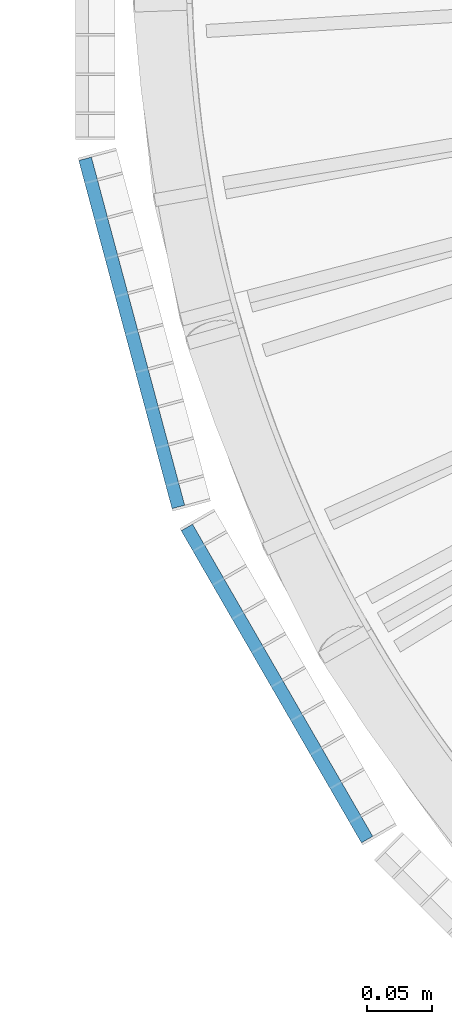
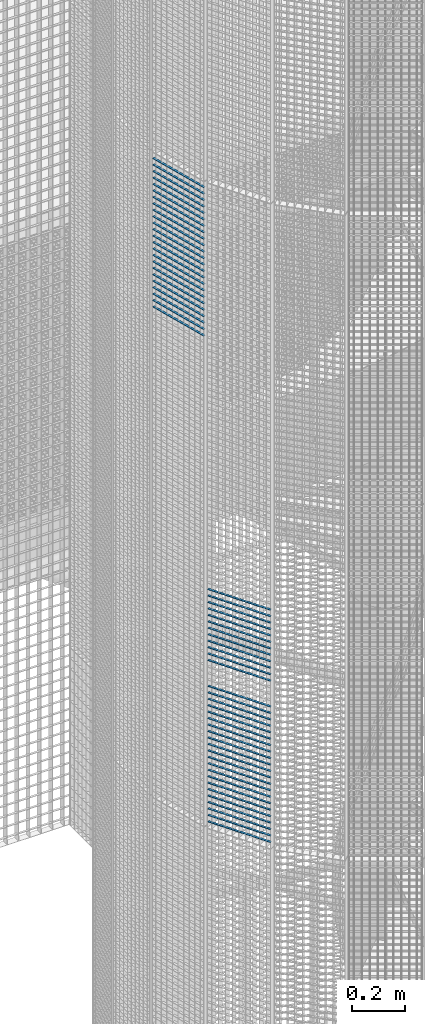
# One storey, part 122 of 1183: 58 beams, 2 elements without a shape of their own.
"""IFC2X3 building model written with IfcOpenShell, lengths in millimetres."""

from ifc_helpers import new_model, si_unit, frame, origin_with_axes, origin_2d_with_axis, place, context, subcontext, project, spatial, rectangle, extrude, material, type_object, element, aggregate, save


model = new_model("IFC2X3")

# Units and contexts
model_context = context("Model", 3, precision=1e-05, world=origin_with_axes())
body_context = subcontext(model_context, "Body", "Model", "MODEL_VIEW")
ifc_project = project(units=[si_unit("LENGTHUNIT", "METRE", prefix="MILLI"), si_unit("AREAUNIT", "SQUARE_METRE"), si_unit("VOLUMEUNIT", "CUBIC_METRE"), si_unit("MASSUNIT", "GRAM", prefix="KILO"), si_unit("TIMEUNIT", "SECOND"), si_unit("PLANEANGLEUNIT", "RADIAN"), si_unit("SOLIDANGLEUNIT", "STERADIAN"), si_unit("THERMODYNAMICTEMPERATUREUNIT", "DEGREE_CELSIUS"), si_unit("LUMINOUSINTENSITYUNIT", "LUMEN")], contexts=[model_context])

# Site, building, storey
site_placement = place(None, origin_with_axes())
site = spatial("IfcSite", under=ifc_project, at=site_placement, Name="Undefined", CompositionType="ELEMENT")
building_placement = place(site_placement, origin_with_axes())
building = spatial("IfcBuilding", under=site, at=building_placement, Name="Undefined", CompositionType="ELEMENT")
storey_placement = place(building_placement, origin_with_axes())
storey = spatial("IfcBuildingStorey", under=building, at=storey_placement, Name="Undefined", CompositionType="ELEMENT", Elevation=0.0)

# Assembly, beams
assembly_1_placement = place(storey_placement, origin_with_axes())
assembly_1 = element("IfcElementAssembly", 1, at=assembly_1_placement, inside=storey, Name="BORDURE", AssemblyPlace="NOTDEFINED", PredefinedType="NOTDEFINED")
ifc_material = material(Name="STEEL/S235JR")
beam_type = type_object("IfcBeamType", Name="PL2*10", PredefinedType="NOTDEFINED")
beam_1_placement = place(assembly_1_placement, frame((-1033.29996828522, -437.231955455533, 6660.0), z_axis=(-0.866025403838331, -0.499999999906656, 0.0), x_axis=(0.499999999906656, -0.866025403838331, 0.0)))
beam_1 = element("IfcBeam", 2, at=beam_1_placement, type_object=beam_type, material=ifc_material, Name="ENTRETOISE", context=body_context, shape_type="SweptSolid", body=[
    extrude(rectangle(XDim=2.0, YDim=10.0, at=origin_2d_with_axis()), frame((275.999999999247, 9.09494701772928e-13, 1.53210777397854e-14), z_axis=(-1.0, 0.0, 0.0), x_axis=(0.0, -1.0, 0.0)), (0.0, 0.0, 1.0), 276.0),
])
beam_2_placement = place(assembly_1_placement, frame((-1033.29996828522, -437.231955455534, 6630.0), z_axis=(-0.866025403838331, -0.499999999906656, 0.0), x_axis=(0.499999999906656, -0.866025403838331, 0.0)))
beam_2 = element("IfcBeam", 3, at=beam_2_placement, type_object=beam_type, material=ifc_material, Name="ENTRETOISE", context=body_context, shape_type="SweptSolid", body=[
    extrude(rectangle(XDim=2.0, YDim=10.0, at=origin_2d_with_axis()), frame((275.999999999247, 9.09494701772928e-13, 1.53210777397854e-14), z_axis=(-1.0, 0.0, 0.0), x_axis=(0.0, -1.0, 0.0)), (0.0, 0.0, 1.0), 276.0),
])
beam_3_placement = place(assembly_1_placement, frame((-1033.29996828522, -437.231955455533, 6780.0), z_axis=(-0.866025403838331, -0.499999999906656, 0.0), x_axis=(0.499999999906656, -0.866025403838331, 0.0)))
beam_3 = element("IfcBeam", 4, at=beam_3_placement, type_object=beam_type, material=ifc_material, Name="ENTRETOISE", context=body_context, shape_type="SweptSolid", body=[
    extrude(rectangle(XDim=2.0, YDim=10.0, at=origin_2d_with_axis()), frame((275.999999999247, 9.09494701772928e-13, 1.53210777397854e-14), z_axis=(-1.0, 0.0, 0.0), x_axis=(0.0, -1.0, 0.0)), (0.0, 0.0, 1.0), 276.0),
])
beam_4_placement = place(assembly_1_placement, frame((-1033.29996828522, -437.231955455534, 6600.0), z_axis=(-0.866025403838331, -0.499999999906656, 0.0), x_axis=(0.499999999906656, -0.866025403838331, 0.0)))
beam_4 = element("IfcBeam", 5, at=beam_4_placement, type_object=beam_type, material=ifc_material, Name="ENTRETOISE", context=body_context, shape_type="SweptSolid", body=[
    extrude(rectangle(XDim=2.0, YDim=10.0, at=origin_2d_with_axis()), frame((275.999999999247, 9.09494701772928e-13, 1.53210777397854e-14), z_axis=(-1.0, 0.0, 0.0), x_axis=(0.0, -1.0, 0.0)), (0.0, 0.0, 1.0), 276.0),
])
beam_5_placement = place(assembly_1_placement, frame((-1033.29996828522, -437.231955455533, 6810.0), z_axis=(-0.866025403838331, -0.499999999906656, 0.0), x_axis=(0.499999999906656, -0.866025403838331, 0.0)))
beam_5 = element("IfcBeam", 6, at=beam_5_placement, type_object=beam_type, material=ifc_material, Name="ENTRETOISE", context=body_context, shape_type="SweptSolid", body=[
    extrude(rectangle(XDim=2.0, YDim=10.0, at=origin_2d_with_axis()), frame((275.999999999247, 9.09494701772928e-13, 1.53210777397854e-14), z_axis=(-1.0, 0.0, 0.0), x_axis=(0.0, -1.0, 0.0)), (0.0, 0.0, 1.0), 276.0),
])
beam_6_placement = place(assembly_1_placement, frame((-1033.29996828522, -437.231955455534, 6570.0), z_axis=(-0.866025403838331, -0.499999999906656, 0.0), x_axis=(0.499999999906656, -0.866025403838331, 0.0)))
beam_6 = element("IfcBeam", 7, at=beam_6_placement, type_object=beam_type, material=ifc_material, Name="ENTRETOISE", context=body_context, shape_type="SweptSolid", body=[
    extrude(rectangle(XDim=2.0, YDim=10.0, at=origin_2d_with_axis()), frame((275.999999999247, 9.09494701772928e-13, 1.53210777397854e-14), z_axis=(-1.0, 0.0, 0.0), x_axis=(0.0, -1.0, 0.0)), (0.0, 0.0, 1.0), 276.0),
])
beam_7_placement = place(assembly_1_placement, frame((-1033.29996828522, -437.231955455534, 6540.0), z_axis=(-0.866025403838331, -0.499999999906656, 0.0), x_axis=(0.499999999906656, -0.866025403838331, 0.0)))
beam_7 = element("IfcBeam", 8, at=beam_7_placement, type_object=beam_type, material=ifc_material, Name="ENTRETOISE", context=body_context, shape_type="SweptSolid", body=[
    extrude(rectangle(XDim=2.0, YDim=10.0, at=origin_2d_with_axis()), frame((275.999999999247, 9.09494701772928e-13, 1.53210777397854e-14), z_axis=(-1.0, 0.0, 0.0), x_axis=(0.0, -1.0, 0.0)), (0.0, 0.0, 1.0), 276.0),
])
beam_8_placement = place(assembly_1_placement, frame((-1033.29996828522, -437.231955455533, 6840.0), z_axis=(-0.866025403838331, -0.499999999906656, 0.0), x_axis=(0.499999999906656, -0.866025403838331, 0.0)))
beam_8 = element("IfcBeam", 9, at=beam_8_placement, type_object=beam_type, material=ifc_material, Name="ENTRETOISE", context=body_context, shape_type="SweptSolid", body=[
    extrude(rectangle(XDim=2.0, YDim=10.0, at=origin_2d_with_axis()), frame((275.999999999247, 9.09494701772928e-13, 1.53210777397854e-14), z_axis=(-1.0, 0.0, 0.0), x_axis=(0.0, -1.0, 0.0)), (0.0, 0.0, 1.0), 276.0),
])
beam_9_placement = place(assembly_1_placement, frame((-1033.29996828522, -437.231955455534, 6510.0), z_axis=(-0.866025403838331, -0.499999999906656, 0.0), x_axis=(0.499999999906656, -0.866025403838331, 0.0)))
beam_9 = element("IfcBeam", 10, at=beam_9_placement, type_object=beam_type, material=ifc_material, Name="ENTRETOISE", context=body_context, shape_type="SweptSolid", body=[
    extrude(rectangle(XDim=2.0, YDim=10.0, at=origin_2d_with_axis()), frame((275.999999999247, 9.09494701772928e-13, 1.53210777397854e-14), z_axis=(-1.0, 0.0, 0.0), x_axis=(0.0, -1.0, 0.0)), (0.0, 0.0, 1.0), 276.0),
])
beam_10_placement = place(assembly_1_placement, frame((-1033.29996828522, -437.231955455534, 6480.0), z_axis=(-0.866025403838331, -0.499999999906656, 0.0), x_axis=(0.499999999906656, -0.866025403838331, 0.0)))
beam_10 = element("IfcBeam", 11, at=beam_10_placement, type_object=beam_type, material=ifc_material, Name="ENTRETOISE", context=body_context, shape_type="SweptSolid", body=[
    extrude(rectangle(XDim=2.0, YDim=10.0, at=origin_2d_with_axis()), frame((275.999999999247, 9.09494701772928e-13, 1.53210777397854e-14), z_axis=(-1.0, 0.0, 0.0), x_axis=(0.0, -1.0, 0.0)), (0.0, 0.0, 1.0), 276.0),
])
beam_11_placement = place(assembly_1_placement, frame((-1033.29996828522, -437.231955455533, 6870.0), z_axis=(-0.866025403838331, -0.499999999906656, 0.0), x_axis=(0.499999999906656, -0.866025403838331, 0.0)))
beam_11 = element("IfcBeam", 12, at=beam_11_placement, type_object=beam_type, material=ifc_material, Name="ENTRETOISE", context=body_context, shape_type="SweptSolid", body=[
    extrude(rectangle(XDim=2.0, YDim=10.0, at=origin_2d_with_axis()), frame((275.999999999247, 9.09494701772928e-13, 1.53210777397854e-14), z_axis=(-1.0, 0.0, 0.0), x_axis=(0.0, -1.0, 0.0)), (0.0, 0.0, 1.0), 276.0),
])
beam_12_placement = place(assembly_1_placement, frame((-1033.29996828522, -437.231955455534, 6450.0), z_axis=(-0.866025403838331, -0.499999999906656, 0.0), x_axis=(0.499999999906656, -0.866025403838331, 0.0)))
beam_12 = element("IfcBeam", 13, at=beam_12_placement, type_object=beam_type, material=ifc_material, Name="ENTRETOISE", context=body_context, shape_type="SweptSolid", body=[
    extrude(rectangle(XDim=2.0, YDim=10.0, at=origin_2d_with_axis()), frame((275.999999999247, 9.09494701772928e-13, 1.53210777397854e-14), z_axis=(-1.0, 0.0, 0.0), x_axis=(0.0, -1.0, 0.0)), (0.0, 0.0, 1.0), 276.0),
])
beam_13_placement = place(assembly_1_placement, frame((-1033.29996828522, -437.231955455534, 6420.0), z_axis=(-0.866025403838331, -0.499999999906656, 0.0), x_axis=(0.499999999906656, -0.866025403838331, 0.0)))
beam_13 = element("IfcBeam", 14, at=beam_13_placement, type_object=beam_type, material=ifc_material, Name="ENTRETOISE", context=body_context, shape_type="SweptSolid", body=[
    extrude(rectangle(XDim=2.0, YDim=10.0, at=origin_2d_with_axis()), frame((275.999999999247, 9.09494701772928e-13, 1.53210777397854e-14), z_axis=(-1.0, 0.0, 0.0), x_axis=(0.0, -1.0, 0.0)), (0.0, 0.0, 1.0), 276.0),
])
beam_14_placement = place(assembly_1_placement, frame((-1033.29996828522, -437.231955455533, 6900.0), z_axis=(-0.866025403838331, -0.499999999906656, 0.0), x_axis=(0.499999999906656, -0.866025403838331, 0.0)))
beam_14 = element("IfcBeam", 15, at=beam_14_placement, type_object=beam_type, material=ifc_material, Name="ENTRETOISE", context=body_context, shape_type="SweptSolid", body=[
    extrude(rectangle(XDim=2.0, YDim=10.0, at=origin_2d_with_axis()), frame((275.999999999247, 9.09494701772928e-13, 1.53210777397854e-14), z_axis=(-1.0, 0.0, 0.0), x_axis=(0.0, -1.0, 0.0)), (0.0, 0.0, 1.0), 276.0),
])
beam_15_placement = place(assembly_1_placement, frame((-1033.29996828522, -437.231955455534, 6390.0), z_axis=(-0.866025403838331, -0.499999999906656, 0.0), x_axis=(0.499999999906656, -0.866025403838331, 0.0)))
beam_15 = element("IfcBeam", 16, at=beam_15_placement, type_object=beam_type, material=ifc_material, Name="ENTRETOISE", context=body_context, shape_type="SweptSolid", body=[
    extrude(rectangle(XDim=2.0, YDim=10.0, at=origin_2d_with_axis()), frame((275.999999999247, 9.09494701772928e-13, 1.53210777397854e-14), z_axis=(-1.0, 0.0, 0.0), x_axis=(0.0, -1.0, 0.0)), (0.0, 0.0, 1.0), 276.0),
])
beam_16_placement = place(assembly_1_placement, frame((-1033.29996828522, -437.231955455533, 6930.0), z_axis=(-0.866025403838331, -0.499999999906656, 0.0), x_axis=(0.499999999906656, -0.866025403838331, 0.0)))
beam_16 = element("IfcBeam", 17, at=beam_16_placement, type_object=beam_type, material=ifc_material, Name="ENTRETOISE", context=body_context, shape_type="SweptSolid", body=[
    extrude(rectangle(XDim=2.0, YDim=10.0, at=origin_2d_with_axis()), frame((275.999999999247, 9.09494701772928e-13, 1.53210777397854e-14), z_axis=(-1.0, 0.0, 0.0), x_axis=(0.0, -1.0, 0.0)), (0.0, 0.0, 1.0), 276.0),
])
beam_17_placement = place(assembly_1_placement, frame((-1033.29996828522, -437.231955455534, 6360.0), z_axis=(-0.866025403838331, -0.499999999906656, 0.0), x_axis=(0.499999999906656, -0.866025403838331, 0.0)))
beam_17 = element("IfcBeam", 18, at=beam_17_placement, type_object=beam_type, material=ifc_material, Name="ENTRETOISE", context=body_context, shape_type="SweptSolid", body=[
    extrude(rectangle(XDim=2.0, YDim=10.0, at=origin_2d_with_axis()), frame((275.999999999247, 9.09494701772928e-13, 1.53210777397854e-14), z_axis=(-1.0, 0.0, 0.0), x_axis=(0.0, -1.0, 0.0)), (0.0, 0.0, 1.0), 276.0),
])
beam_18_placement = place(assembly_1_placement, frame((-1033.29996828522, -437.231955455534, 6330.0), z_axis=(-0.866025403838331, -0.499999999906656, 0.0), x_axis=(0.499999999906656, -0.866025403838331, 0.0)))
beam_18 = element("IfcBeam", 19, at=beam_18_placement, type_object=beam_type, material=ifc_material, Name="ENTRETOISE", context=body_context, shape_type="SweptSolid", body=[
    extrude(rectangle(XDim=2.0, YDim=10.0, at=origin_2d_with_axis()), frame((275.999999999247, 9.09494701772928e-13, 1.53210777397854e-14), z_axis=(-1.0, 0.0, 0.0), x_axis=(0.0, -1.0, 0.0)), (0.0, 0.0, 1.0), 276.0),
])
beam_19_placement = place(assembly_1_placement, frame((-1033.29996828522, -437.231955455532, 6960.0), z_axis=(-0.866025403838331, -0.499999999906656, 0.0), x_axis=(0.499999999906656, -0.866025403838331, 0.0)))
beam_19 = element("IfcBeam", 20, at=beam_19_placement, type_object=beam_type, material=ifc_material, Name="ENTRETOISE", context=body_context, shape_type="SweptSolid", body=[
    extrude(rectangle(XDim=2.0, YDim=10.0, at=origin_2d_with_axis()), frame((275.999999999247, 9.09494701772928e-13, 1.53210777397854e-14), z_axis=(-1.0, 0.0, 0.0), x_axis=(0.0, -1.0, 0.0)), (0.0, 0.0, 1.0), 276.0),
])
beam_20_placement = place(assembly_1_placement, frame((-1033.29996828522, -437.231955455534, 6300.0), z_axis=(-0.866025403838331, -0.499999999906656, 0.0), x_axis=(0.499999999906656, -0.866025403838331, 0.0)))
beam_20 = element("IfcBeam", 21, at=beam_20_placement, type_object=beam_type, material=ifc_material, Name="ENTRETOISE", context=body_context, shape_type="SweptSolid", body=[
    extrude(rectangle(XDim=2.0, YDim=10.0, at=origin_2d_with_axis()), frame((275.999999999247, 9.09494701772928e-13, 1.53210777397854e-14), z_axis=(-1.0, 0.0, 0.0), x_axis=(0.0, -1.0, 0.0)), (0.0, 0.0, 1.0), 276.0),
])
beam_21_placement = place(assembly_1_placement, frame((-1033.29996828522, -437.231955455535, 6270.0), z_axis=(-0.866025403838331, -0.499999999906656, 0.0), x_axis=(0.499999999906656, -0.866025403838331, 0.0)))
beam_21 = element("IfcBeam", 22, at=beam_21_placement, type_object=beam_type, material=ifc_material, Name="ENTRETOISE", context=body_context, shape_type="SweptSolid", body=[
    extrude(rectangle(XDim=2.0, YDim=10.0, at=origin_2d_with_axis()), frame((275.999999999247, 9.09494701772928e-13, 1.53210777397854e-14), z_axis=(-1.0, 0.0, 0.0), x_axis=(0.0, -1.0, 0.0)), (0.0, 0.0, 1.0), 276.0),
])
beam_22_placement = place(assembly_1_placement, frame((-1033.29996828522, -437.231955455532, 6990.0), z_axis=(-0.866025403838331, -0.499999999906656, 0.0), x_axis=(0.499999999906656, -0.866025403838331, 0.0)))
beam_22 = element("IfcBeam", 23, at=beam_22_placement, type_object=beam_type, material=ifc_material, Name="ENTRETOISE", context=body_context, shape_type="SweptSolid", body=[
    extrude(rectangle(XDim=2.0, YDim=10.0, at=origin_2d_with_axis()), frame((275.999999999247, 9.09494701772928e-13, 1.53210777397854e-14), z_axis=(-1.0, 0.0, 0.0), x_axis=(0.0, -1.0, 0.0)), (0.0, 0.0, 1.0), 276.0),
])
beam_23_placement = place(assembly_1_placement, frame((-1033.29996828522, -437.231955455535, 6240.0), z_axis=(-0.866025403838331, -0.499999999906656, 0.0), x_axis=(0.499999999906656, -0.866025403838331, 0.0)))
beam_23 = element("IfcBeam", 24, at=beam_23_placement, type_object=beam_type, material=ifc_material, Name="ENTRETOISE", context=body_context, shape_type="SweptSolid", body=[
    extrude(rectangle(XDim=2.0, YDim=10.0, at=origin_2d_with_axis()), frame((275.999999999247, 9.09494701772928e-13, 1.53210777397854e-14), z_axis=(-1.0, 0.0, 0.0), x_axis=(0.0, -1.0, 0.0)), (0.0, 0.0, 1.0), 276.0),
])
beam_24_placement = place(assembly_1_placement, frame((-1033.29996828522, -437.231955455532, 7020.0), z_axis=(-0.866025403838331, -0.499999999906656, 0.0), x_axis=(0.499999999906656, -0.866025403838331, 0.0)))
beam_24 = element("IfcBeam", 25, at=beam_24_placement, type_object=beam_type, material=ifc_material, Name="ENTRETOISE", context=body_context, shape_type="SweptSolid", body=[
    extrude(rectangle(XDim=2.0, YDim=10.0, at=origin_2d_with_axis()), frame((275.999999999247, 9.09494701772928e-13, 1.53210777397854e-14), z_axis=(-1.0, 0.0, 0.0), x_axis=(0.0, -1.0, 0.0)), (0.0, 0.0, 1.0), 276.0),
])
beam_25_placement = place(assembly_1_placement, frame((-1033.29996828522, -437.231955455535, 6210.0), z_axis=(-0.866025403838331, -0.499999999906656, 0.0), x_axis=(0.499999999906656, -0.866025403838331, 0.0)))
beam_25 = element("IfcBeam", 26, at=beam_25_placement, type_object=beam_type, material=ifc_material, Name="ENTRETOISE", context=body_context, shape_type="SweptSolid", body=[
    extrude(rectangle(XDim=2.0, YDim=10.0, at=origin_2d_with_axis()), frame((275.999999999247, 9.09494701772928e-13, 1.53210777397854e-14), z_axis=(-1.0, 0.0, 0.0), x_axis=(0.0, -1.0, 0.0)), (0.0, 0.0, 1.0), 276.0),
])
beam_26_placement = place(assembly_1_placement, frame((-1033.29996828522, -437.231955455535, 6180.0), z_axis=(-0.866025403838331, -0.499999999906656, 0.0), x_axis=(0.499999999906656, -0.866025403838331, 0.0)))
beam_26 = element("IfcBeam", 27, at=beam_26_placement, type_object=beam_type, material=ifc_material, Name="ENTRETOISE", context=body_context, shape_type="SweptSolid", body=[
    extrude(rectangle(XDim=2.0, YDim=10.0, at=origin_2d_with_axis()), frame((275.999999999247, 9.09494701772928e-13, 1.53210777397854e-14), z_axis=(-1.0, 0.0, 0.0), x_axis=(0.0, -1.0, 0.0)), (0.0, 0.0, 1.0), 276.0),
])
beam_27_placement = place(assembly_1_placement, frame((-1033.29996828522, -437.231955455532, 7050.0), z_axis=(-0.866025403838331, -0.499999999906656, 0.0), x_axis=(0.499999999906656, -0.866025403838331, 0.0)))
beam_27 = element("IfcBeam", 28, at=beam_27_placement, type_object=beam_type, material=ifc_material, Name="ENTRETOISE", context=body_context, shape_type="SweptSolid", body=[
    extrude(rectangle(XDim=2.0, YDim=10.0, at=origin_2d_with_axis()), frame((275.999999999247, 9.09494701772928e-13, 1.53210777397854e-14), z_axis=(-1.0, 0.0, 0.0), x_axis=(0.0, -1.0, 0.0)), (0.0, 0.0, 1.0), 276.0),
])
beam_28_placement = place(assembly_1_placement, frame((-1033.29996828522, -437.231955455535, 6150.0), z_axis=(-0.866025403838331, -0.499999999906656, 0.0), x_axis=(0.499999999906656, -0.866025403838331, 0.0)))
beam_28 = element("IfcBeam", 29, at=beam_28_placement, type_object=beam_type, material=ifc_material, Name="ENTRETOISE", context=body_context, shape_type="SweptSolid", body=[
    extrude(rectangle(XDim=2.0, YDim=10.0, at=origin_2d_with_axis()), frame((275.999999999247, 9.09494701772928e-13, 1.53210777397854e-14), z_axis=(-1.0, 0.0, 0.0), x_axis=(0.0, -1.0, 0.0)), (0.0, 0.0, 1.0), 276.0),
])
beam_29_placement = place(assembly_1_placement, frame((-1033.29996828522, -437.231955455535, 6120.0), z_axis=(-0.866025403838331, -0.499999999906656, 0.0), x_axis=(0.499999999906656, -0.866025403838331, 0.0)))
beam_29 = element("IfcBeam", 30, at=beam_29_placement, type_object=beam_type, material=ifc_material, Name="ENTRETOISE", context=body_context, shape_type="SweptSolid", body=[
    extrude(rectangle(XDim=2.0, YDim=10.0, at=origin_2d_with_axis()), frame((275.999999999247, 9.09494701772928e-13, 1.53210777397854e-14), z_axis=(-1.0, 0.0, 0.0), x_axis=(0.0, -1.0, 0.0)), (0.0, 0.0, 1.0), 276.0),
])
beam_30_placement = place(assembly_1_placement, frame((-1033.29996828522, -437.231955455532, 7080.0), z_axis=(-0.866025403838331, -0.499999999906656, 0.0), x_axis=(0.499999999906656, -0.866025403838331, 0.0)))
beam_30 = element("IfcBeam", 31, at=beam_30_placement, type_object=beam_type, material=ifc_material, Name="ENTRETOISE", context=body_context, shape_type="SweptSolid", body=[
    extrude(rectangle(XDim=2.0, YDim=10.0, at=origin_2d_with_axis()), frame((275.999999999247, 9.09494701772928e-13, 1.53210777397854e-14), z_axis=(-1.0, 0.0, 0.0), x_axis=(0.0, -1.0, 0.0)), (0.0, 0.0, 1.0), 276.0),
])
beam_31_placement = place(assembly_1_placement, frame((-1033.29996828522, -437.231955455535, 6090.0), z_axis=(-0.866025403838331, -0.499999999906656, 0.0), x_axis=(0.499999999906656, -0.866025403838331, 0.0)))
beam_31 = element("IfcBeam", 32, at=beam_31_placement, type_object=beam_type, material=ifc_material, Name="ENTRETOISE", context=body_context, shape_type="SweptSolid", body=[
    extrude(rectangle(XDim=2.0, YDim=10.0, at=origin_2d_with_axis()), frame((275.999999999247, 9.09494701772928e-13, 1.53210777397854e-14), z_axis=(-1.0, 0.0, 0.0), x_axis=(0.0, -1.0, 0.0)), (0.0, 0.0, 1.0), 276.0),
])
beam_32_placement = place(assembly_1_placement, frame((-1033.29996828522, -437.231955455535, 6060.0), z_axis=(-0.866025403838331, -0.499999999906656, 0.0), x_axis=(0.499999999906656, -0.866025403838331, 0.0)))
beam_32 = element("IfcBeam", 33, at=beam_32_placement, type_object=beam_type, material=ifc_material, Name="ENTRETOISE", context=body_context, shape_type="SweptSolid", body=[
    extrude(rectangle(XDim=2.0, YDim=10.0, at=origin_2d_with_axis()), frame((275.999999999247, 9.09494701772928e-13, 1.53210777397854e-14), z_axis=(-1.0, 0.0, 0.0), x_axis=(0.0, -1.0, 0.0)), (0.0, 0.0, 1.0), 276.0),
])
beam_33_placement = place(assembly_1_placement, frame((-1033.29996828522, -437.231955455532, 7110.0), z_axis=(-0.866025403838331, -0.499999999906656, 0.0), x_axis=(0.499999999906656, -0.866025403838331, 0.0)))
beam_33 = element("IfcBeam", 34, at=beam_33_placement, type_object=beam_type, material=ifc_material, Name="ENTRETOISE", context=body_context, shape_type="SweptSolid", body=[
    extrude(rectangle(XDim=2.0, YDim=10.0, at=origin_2d_with_axis()), frame((275.999999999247, 9.09494701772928e-13, 1.53210777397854e-14), z_axis=(-1.0, 0.0, 0.0), x_axis=(0.0, -1.0, 0.0)), (0.0, 0.0, 1.0), 276.0),
])
beam_34_placement = place(assembly_1_placement, frame((-1033.29996828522, -437.231955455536, 6030.0), z_axis=(-0.866025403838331, -0.499999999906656, 0.0), x_axis=(0.499999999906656, -0.866025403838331, 0.0)))
beam_34 = element("IfcBeam", 35, at=beam_34_placement, type_object=beam_type, material=ifc_material, Name="ENTRETOISE", context=body_context, shape_type="SweptSolid", body=[
    extrude(rectangle(XDim=2.0, YDim=10.0, at=origin_2d_with_axis()), frame((275.999999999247, 9.09494701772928e-13, 1.53210777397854e-14), z_axis=(-1.0, 0.0, 0.0), x_axis=(0.0, -1.0, 0.0)), (0.0, 0.0, 1.0), 276.0),
])
aggregate(assembly_1, [beam_1, beam_2, beam_3, beam_4, beam_5, beam_6, beam_7, beam_8, beam_9, beam_10, beam_11, beam_12, beam_13, beam_14, beam_15, beam_16, beam_17, beam_18, beam_19, beam_20, beam_21, beam_22, beam_23, beam_24, beam_25, beam_26, beam_27, beam_28, beam_29, beam_30, beam_31, beam_32, beam_33, beam_34])

assembly_2_placement = place(storey_placement, origin_with_axes())
assembly_2 = element("IfcElementAssembly", 36, at=assembly_2_placement, inside=storey, Name="BORDURE", AssemblyPlace="NOTDEFINED", PredefinedType="NOTDEFINED")
beam_35_placement = place(assembly_2_placement, frame((-1111.25508286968, -154.895926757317, 8970.0), z_axis=(-0.965925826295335, -0.258819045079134, 0.0), x_axis=(0.258819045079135, -0.965925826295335, 0.0)))
beam_35 = element("IfcBeam", 37, at=beam_35_placement, type_object=beam_type, material=ifc_material, Name="ENTRETOISE", context=body_context, shape_type="SweptSolid", body=[
    extrude(rectangle(XDim=2.0, YDim=10.0, at=origin_2d_with_axis()), frame((275.999999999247, 9.09494701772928e-13, 1.53210777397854e-14), z_axis=(-1.0, 0.0, 0.0), x_axis=(0.0, -1.0, 0.0)), (0.0, 0.0, 1.0), 276.0),
])
beam_36_placement = place(assembly_2_placement, frame((-1111.25508286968, -154.895926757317, 8940.0), z_axis=(-0.965925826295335, -0.258819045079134, 0.0), x_axis=(0.258819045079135, -0.965925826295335, 0.0)))
beam_36 = element("IfcBeam", 38, at=beam_36_placement, type_object=beam_type, material=ifc_material, Name="ENTRETOISE", context=body_context, shape_type="SweptSolid", body=[
    extrude(rectangle(XDim=2.0, YDim=10.0, at=origin_2d_with_axis()), frame((275.999999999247, 9.09494701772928e-13, 1.53210777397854e-14), z_axis=(-1.0, 0.0, 0.0), x_axis=(0.0, -1.0, 0.0)), (0.0, 0.0, 1.0), 276.0),
])
beam_37_placement = place(assembly_2_placement, frame((-1111.25508286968, -154.895926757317, 8910.0), z_axis=(-0.965925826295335, -0.258819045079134, 0.0), x_axis=(0.258819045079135, -0.965925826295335, 0.0)))
beam_37 = element("IfcBeam", 39, at=beam_37_placement, type_object=beam_type, material=ifc_material, Name="ENTRETOISE", context=body_context, shape_type="SweptSolid", body=[
    extrude(rectangle(XDim=2.0, YDim=10.0, at=origin_2d_with_axis()), frame((275.999999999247, 9.09494701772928e-13, 1.53210777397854e-14), z_axis=(-1.0, 0.0, 0.0), x_axis=(0.0, -1.0, 0.0)), (0.0, 0.0, 1.0), 276.0),
])
beam_38_placement = place(assembly_2_placement, frame((-1111.25508286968, -154.895926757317, 8880.0), z_axis=(-0.965925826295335, -0.258819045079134, 0.0), x_axis=(0.258819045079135, -0.965925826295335, 0.0)))
beam_38 = element("IfcBeam", 40, at=beam_38_placement, type_object=beam_type, material=ifc_material, Name="ENTRETOISE", context=body_context, shape_type="SweptSolid", body=[
    extrude(rectangle(XDim=2.0, YDim=10.0, at=origin_2d_with_axis()), frame((275.999999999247, 9.09494701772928e-13, 1.53210777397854e-14), z_axis=(-1.0, 0.0, 0.0), x_axis=(0.0, -1.0, 0.0)), (0.0, 0.0, 1.0), 276.0),
])
beam_39_placement = place(assembly_2_placement, frame((-1111.25508286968, -154.895926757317, 8850.0), z_axis=(-0.965925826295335, -0.258819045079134, 0.0), x_axis=(0.258819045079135, -0.965925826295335, 0.0)))
beam_39 = element("IfcBeam", 41, at=beam_39_placement, type_object=beam_type, material=ifc_material, Name="ENTRETOISE", context=body_context, shape_type="SweptSolid", body=[
    extrude(rectangle(XDim=2.0, YDim=10.0, at=origin_2d_with_axis()), frame((275.999999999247, 9.09494701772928e-13, 1.53210777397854e-14), z_axis=(-1.0, 0.0, 0.0), x_axis=(0.0, -1.0, 0.0)), (0.0, 0.0, 1.0), 276.0),
])
beam_40_placement = place(assembly_2_placement, frame((-1111.25508286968, -154.895926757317, 8820.0), z_axis=(-0.965925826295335, -0.258819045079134, 0.0), x_axis=(0.258819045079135, -0.965925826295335, 0.0)))
beam_40 = element("IfcBeam", 42, at=beam_40_placement, type_object=beam_type, material=ifc_material, Name="ENTRETOISE", context=body_context, shape_type="SweptSolid", body=[
    extrude(rectangle(XDim=2.0, YDim=10.0, at=origin_2d_with_axis()), frame((275.999999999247, 9.09494701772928e-13, 1.53210777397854e-14), z_axis=(-1.0, 0.0, 0.0), x_axis=(0.0, -1.0, 0.0)), (0.0, 0.0, 1.0), 276.0),
])
beam_41_placement = place(assembly_2_placement, frame((-1111.25508286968, -154.895926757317, 8790.0), z_axis=(-0.965925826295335, -0.258819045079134, 0.0), x_axis=(0.258819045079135, -0.965925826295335, 0.0)))
beam_41 = element("IfcBeam", 43, at=beam_41_placement, type_object=beam_type, material=ifc_material, Name="ENTRETOISE", context=body_context, shape_type="SweptSolid", body=[
    extrude(rectangle(XDim=2.0, YDim=10.0, at=origin_2d_with_axis()), frame((275.999999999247, 9.09494701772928e-13, 1.53210777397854e-14), z_axis=(-1.0, 0.0, 0.0), x_axis=(0.0, -1.0, 0.0)), (0.0, 0.0, 1.0), 276.0),
])
beam_42_placement = place(assembly_2_placement, frame((-1111.25508286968, -154.895926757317, 8760.0), z_axis=(-0.965925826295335, -0.258819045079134, 0.0), x_axis=(0.258819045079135, -0.965925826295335, 0.0)))
beam_42 = element("IfcBeam", 44, at=beam_42_placement, type_object=beam_type, material=ifc_material, Name="ENTRETOISE", context=body_context, shape_type="SweptSolid", body=[
    extrude(rectangle(XDim=2.0, YDim=10.0, at=origin_2d_with_axis()), frame((275.999999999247, 9.09494701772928e-13, 1.53210777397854e-14), z_axis=(-1.0, 0.0, 0.0), x_axis=(0.0, -1.0, 0.0)), (0.0, 0.0, 1.0), 276.0),
])
beam_43_placement = place(assembly_2_placement, frame((-1111.25508286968, -154.895926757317, 8730.0), z_axis=(-0.965925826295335, -0.258819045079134, 0.0), x_axis=(0.258819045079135, -0.965925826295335, 0.0)))
beam_43 = element("IfcBeam", 45, at=beam_43_placement, type_object=beam_type, material=ifc_material, Name="ENTRETOISE", context=body_context, shape_type="SweptSolid", body=[
    extrude(rectangle(XDim=2.0, YDim=10.0, at=origin_2d_with_axis()), frame((275.999999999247, 9.09494701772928e-13, 1.53210777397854e-14), z_axis=(-1.0, 0.0, 0.0), x_axis=(0.0, -1.0, 0.0)), (0.0, 0.0, 1.0), 276.0),
])
beam_44_placement = place(assembly_2_placement, frame((-1111.25508286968, -154.895926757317, 8700.0), z_axis=(-0.965925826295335, -0.258819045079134, 0.0), x_axis=(0.258819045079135, -0.965925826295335, 0.0)))
beam_44 = element("IfcBeam", 46, at=beam_44_placement, type_object=beam_type, material=ifc_material, Name="ENTRETOISE", context=body_context, shape_type="SweptSolid", body=[
    extrude(rectangle(XDim=2.0, YDim=10.0, at=origin_2d_with_axis()), frame((275.999999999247, 9.09494701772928e-13, 1.53210777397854e-14), z_axis=(-1.0, 0.0, 0.0), x_axis=(0.0, -1.0, 0.0)), (0.0, 0.0, 1.0), 276.0),
])
beam_45_placement = place(assembly_2_placement, frame((-1111.25508286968, -154.895926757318, 8670.0), z_axis=(-0.965925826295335, -0.258819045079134, 0.0), x_axis=(0.258819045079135, -0.965925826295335, 0.0)))
beam_45 = element("IfcBeam", 47, at=beam_45_placement, type_object=beam_type, material=ifc_material, Name="ENTRETOISE", context=body_context, shape_type="SweptSolid", body=[
    extrude(rectangle(XDim=2.0, YDim=10.0, at=origin_2d_with_axis()), frame((275.999999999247, 9.09494701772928e-13, 1.53210777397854e-14), z_axis=(-1.0, 0.0, 0.0), x_axis=(0.0, -1.0, 0.0)), (0.0, 0.0, 1.0), 276.0),
])
beam_46_placement = place(assembly_2_placement, frame((-1111.25508286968, -154.895926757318, 8640.0), z_axis=(-0.965925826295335, -0.258819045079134, 0.0), x_axis=(0.258819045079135, -0.965925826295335, 0.0)))
beam_46 = element("IfcBeam", 48, at=beam_46_placement, type_object=beam_type, material=ifc_material, Name="ENTRETOISE", context=body_context, shape_type="SweptSolid", body=[
    extrude(rectangle(XDim=2.0, YDim=10.0, at=origin_2d_with_axis()), frame((275.999999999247, 9.09494701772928e-13, 1.53210777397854e-14), z_axis=(-1.0, 0.0, 0.0), x_axis=(0.0, -1.0, 0.0)), (0.0, 0.0, 1.0), 276.0),
])
beam_47_placement = place(assembly_2_placement, frame((-1111.25508286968, -154.895926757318, 8610.0), z_axis=(-0.965925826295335, -0.258819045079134, 0.0), x_axis=(0.258819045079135, -0.965925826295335, 0.0)))
beam_47 = element("IfcBeam", 49, at=beam_47_placement, type_object=beam_type, material=ifc_material, Name="ENTRETOISE", context=body_context, shape_type="SweptSolid", body=[
    extrude(rectangle(XDim=2.0, YDim=10.0, at=origin_2d_with_axis()), frame((275.999999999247, 9.09494701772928e-13, 1.53210777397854e-14), z_axis=(-1.0, 0.0, 0.0), x_axis=(0.0, -1.0, 0.0)), (0.0, 0.0, 1.0), 276.0),
])
beam_48_placement = place(assembly_2_placement, frame((-1111.25508286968, -154.895926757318, 8580.0), z_axis=(-0.965925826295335, -0.258819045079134, 0.0), x_axis=(0.258819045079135, -0.965925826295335, 0.0)))
beam_48 = element("IfcBeam", 50, at=beam_48_placement, type_object=beam_type, material=ifc_material, Name="ENTRETOISE", context=body_context, shape_type="SweptSolid", body=[
    extrude(rectangle(XDim=2.0, YDim=10.0, at=origin_2d_with_axis()), frame((275.999999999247, 9.09494701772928e-13, 1.53210777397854e-14), z_axis=(-1.0, 0.0, 0.0), x_axis=(0.0, -1.0, 0.0)), (0.0, 0.0, 1.0), 276.0),
])
beam_49_placement = place(assembly_2_placement, frame((-1111.25508286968, -154.895926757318, 8550.0), z_axis=(-0.965925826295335, -0.258819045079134, 0.0), x_axis=(0.258819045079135, -0.965925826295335, 0.0)))
beam_49 = element("IfcBeam", 51, at=beam_49_placement, type_object=beam_type, material=ifc_material, Name="ENTRETOISE", context=body_context, shape_type="SweptSolid", body=[
    extrude(rectangle(XDim=2.0, YDim=10.0, at=origin_2d_with_axis()), frame((275.999999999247, 9.09494701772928e-13, 1.53210777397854e-14), z_axis=(-1.0, 0.0, 0.0), x_axis=(0.0, -1.0, 0.0)), (0.0, 0.0, 1.0), 276.0),
])
beam_50_placement = place(assembly_2_placement, frame((-1111.25508286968, -154.895926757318, 8520.0), z_axis=(-0.965925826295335, -0.258819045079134, 0.0), x_axis=(0.258819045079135, -0.965925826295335, 0.0)))
beam_50 = element("IfcBeam", 52, at=beam_50_placement, type_object=beam_type, material=ifc_material, Name="ENTRETOISE", context=body_context, shape_type="SweptSolid", body=[
    extrude(rectangle(XDim=2.0, YDim=10.0, at=origin_2d_with_axis()), frame((275.999999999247, 9.09494701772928e-13, 1.53210777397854e-14), z_axis=(-1.0, 0.0, 0.0), x_axis=(0.0, -1.0, 0.0)), (0.0, 0.0, 1.0), 276.0),
])
beam_51_placement = place(assembly_2_placement, frame((-1111.25508286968, -154.895926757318, 8490.0), z_axis=(-0.965925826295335, -0.258819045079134, 0.0), x_axis=(0.258819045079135, -0.965925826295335, 0.0)))
beam_51 = element("IfcBeam", 53, at=beam_51_placement, type_object=beam_type, material=ifc_material, Name="ENTRETOISE", context=body_context, shape_type="SweptSolid", body=[
    extrude(rectangle(XDim=2.0, YDim=10.0, at=origin_2d_with_axis()), frame((275.999999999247, 9.09494701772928e-13, 1.53210777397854e-14), z_axis=(-1.0, 0.0, 0.0), x_axis=(0.0, -1.0, 0.0)), (0.0, 0.0, 1.0), 276.0),
])
beam_52_placement = place(assembly_2_placement, frame((-1111.25508286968, -154.895926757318, 8460.0), z_axis=(-0.965925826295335, -0.258819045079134, 0.0), x_axis=(0.258819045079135, -0.965925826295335, 0.0)))
beam_52 = element("IfcBeam", 54, at=beam_52_placement, type_object=beam_type, material=ifc_material, Name="ENTRETOISE", context=body_context, shape_type="SweptSolid", body=[
    extrude(rectangle(XDim=2.0, YDim=10.0, at=origin_2d_with_axis()), frame((275.999999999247, 9.09494701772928e-13, 1.53210777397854e-14), z_axis=(-1.0, 0.0, 0.0), x_axis=(0.0, -1.0, 0.0)), (0.0, 0.0, 1.0), 276.0),
])
beam_53_placement = place(assembly_2_placement, frame((-1111.25508286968, -154.895926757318, 8430.0), z_axis=(-0.965925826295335, -0.258819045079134, 0.0), x_axis=(0.258819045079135, -0.965925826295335, 0.0)))
beam_53 = element("IfcBeam", 55, at=beam_53_placement, type_object=beam_type, material=ifc_material, Name="ENTRETOISE", context=body_context, shape_type="SweptSolid", body=[
    extrude(rectangle(XDim=2.0, YDim=10.0, at=origin_2d_with_axis()), frame((275.999999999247, 9.09494701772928e-13, 1.53210777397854e-14), z_axis=(-1.0, 0.0, 0.0), x_axis=(0.0, -1.0, 0.0)), (0.0, 0.0, 1.0), 276.0),
])
beam_54_placement = place(assembly_2_placement, frame((-1111.25508286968, -154.895926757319, 8400.0), z_axis=(-0.965925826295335, -0.258819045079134, 0.0), x_axis=(0.258819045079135, -0.965925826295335, 0.0)))
beam_54 = element("IfcBeam", 56, at=beam_54_placement, type_object=beam_type, material=ifc_material, Name="ENTRETOISE", context=body_context, shape_type="SweptSolid", body=[
    extrude(rectangle(XDim=2.0, YDim=10.0, at=origin_2d_with_axis()), frame((275.999999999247, 9.09494701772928e-13, 1.53210777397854e-14), z_axis=(-1.0, 0.0, 0.0), x_axis=(0.0, -1.0, 0.0)), (0.0, 0.0, 1.0), 276.0),
])
beam_55_placement = place(assembly_2_placement, frame((-1111.25508286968, -154.895926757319, 8370.0), z_axis=(-0.965925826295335, -0.258819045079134, 0.0), x_axis=(0.258819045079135, -0.965925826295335, 0.0)))
beam_55 = element("IfcBeam", 57, at=beam_55_placement, type_object=beam_type, material=ifc_material, Name="ENTRETOISE", context=body_context, shape_type="SweptSolid", body=[
    extrude(rectangle(XDim=2.0, YDim=10.0, at=origin_2d_with_axis()), frame((275.999999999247, 9.09494701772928e-13, 1.53210777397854e-14), z_axis=(-1.0, 0.0, 0.0), x_axis=(0.0, -1.0, 0.0)), (0.0, 0.0, 1.0), 276.0),
])
beam_56_placement = place(assembly_2_placement, frame((-1111.25508286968, -154.895926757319, 8340.0), z_axis=(-0.965925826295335, -0.258819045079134, 0.0), x_axis=(0.258819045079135, -0.965925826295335, 0.0)))
beam_56 = element("IfcBeam", 58, at=beam_56_placement, type_object=beam_type, material=ifc_material, Name="ENTRETOISE", context=body_context, shape_type="SweptSolid", body=[
    extrude(rectangle(XDim=2.0, YDim=10.0, at=origin_2d_with_axis()), frame((275.999999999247, 9.09494701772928e-13, 1.53210777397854e-14), z_axis=(-1.0, 0.0, 0.0), x_axis=(0.0, -1.0, 0.0)), (0.0, 0.0, 1.0), 276.0),
])
beam_57_placement = place(assembly_2_placement, frame((-1111.25508286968, -154.895926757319, 8310.0), z_axis=(-0.965925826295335, -0.258819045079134, 0.0), x_axis=(0.258819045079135, -0.965925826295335, 0.0)))
beam_57 = element("IfcBeam", 59, at=beam_57_placement, type_object=beam_type, material=ifc_material, Name="ENTRETOISE", context=body_context, shape_type="SweptSolid", body=[
    extrude(rectangle(XDim=2.0, YDim=10.0, at=origin_2d_with_axis()), frame((275.999999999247, 9.09494701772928e-13, 1.53210777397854e-14), z_axis=(-1.0, 0.0, 0.0), x_axis=(0.0, -1.0, 0.0)), (0.0, 0.0, 1.0), 276.0),
])
beam_58_placement = place(assembly_2_placement, frame((-1111.25508286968, -154.895926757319, 8280.0), z_axis=(-0.965925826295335, -0.258819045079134, 0.0), x_axis=(0.258819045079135, -0.965925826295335, 0.0)))
beam_58 = element("IfcBeam", 60, at=beam_58_placement, type_object=beam_type, material=ifc_material, Name="ENTRETOISE", context=body_context, shape_type="SweptSolid", body=[
    extrude(rectangle(XDim=2.0, YDim=10.0, at=origin_2d_with_axis()), frame((275.999999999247, 9.09494701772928e-13, 1.53210777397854e-14), z_axis=(-1.0, 0.0, 0.0), x_axis=(0.0, -1.0, 0.0)), (0.0, 0.0, 1.0), 276.0),
])
aggregate(assembly_2, [beam_35, beam_36, beam_37, beam_38, beam_39, beam_40, beam_41, beam_42, beam_43, beam_44, beam_45, beam_46, beam_47, beam_48, beam_49, beam_50, beam_51, beam_52, beam_53, beam_54, beam_55, beam_56, beam_57, beam_58])

save(model, "model.ifc")
